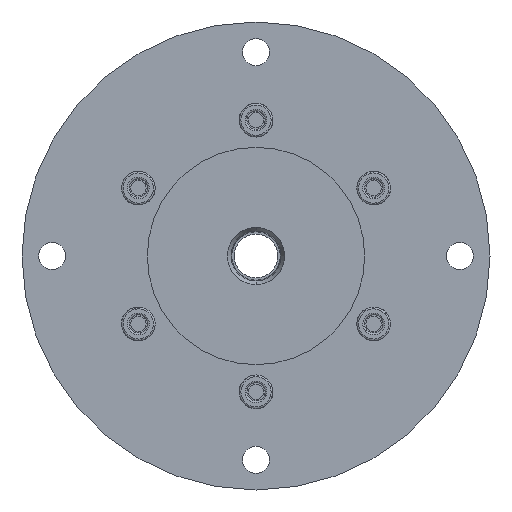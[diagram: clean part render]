
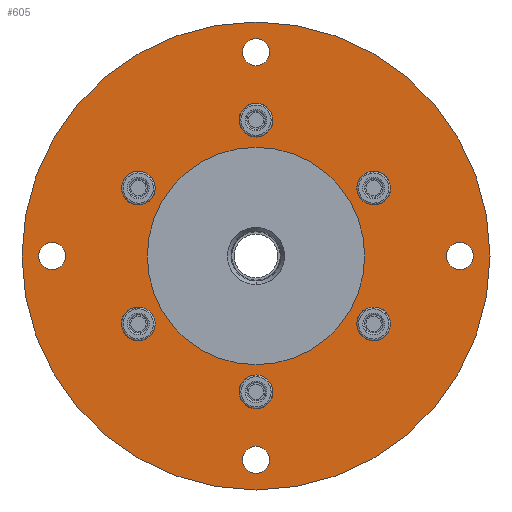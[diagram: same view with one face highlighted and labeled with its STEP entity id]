
A CAD part, front view. The second image highlights one B-rep face of the part: STEP entity #605.
In plain terms, the highlighted planar face has unit normal (0, -1, 0).
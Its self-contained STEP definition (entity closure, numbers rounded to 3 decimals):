
#60=CARTESIAN_POINT('',(38.971,2.5,-16.9));
#61=VERTEX_POINT('',#60);
#68=CARTESIAN_POINT('',(38.971,2.5,-28.1));
#69=VERTEX_POINT('',#68);
#70=CARTESIAN_POINT('',(38.971,2.5,-22.5));
#71=DIRECTION('',(0.0,-1.0,0.0));
#72=DIRECTION('',(0.866,0.0,-0.5));
#73=AXIS2_PLACEMENT_3D('',#70,#71,#72);
#74=CIRCLE('',#73,5.6);
#75=EDGE_CURVE('no 1353',#61,#69,#74,.T.);
#111=CARTESIAN_POINT('',(38.971,2.5,28.1));
#112=VERTEX_POINT('',#111);
#119=CARTESIAN_POINT('',(38.971,2.5,16.9));
#120=VERTEX_POINT('',#119);
#121=CARTESIAN_POINT('',(38.971,2.5,22.5));
#122=DIRECTION('',(0.0,-1.0,0.0));
#123=DIRECTION('',(0.866,0.0,0.5));
#124=AXIS2_PLACEMENT_3D('',#121,#122,#123);
#125=CIRCLE('',#124,5.6);
#126=EDGE_CURVE('no 1387',#112,#120,#125,.T.);
#162=CARTESIAN_POINT('',(0.0,2.5,50.6));
#163=VERTEX_POINT('',#162);
#170=CARTESIAN_POINT('',(0.0,2.5,39.4));
#171=VERTEX_POINT('',#170);
#172=CARTESIAN_POINT('',(0.0,2.5,45.0));
#173=DIRECTION('',(0.0,-1.0,0.0));
#174=DIRECTION('',(0.0,0.0,1.0));
#175=AXIS2_PLACEMENT_3D('',#172,#173,#174);
#176=CIRCLE('',#175,5.6);
#177=EDGE_CURVE('no 1421',#163,#171,#176,.T.);
#213=CARTESIAN_POINT('',(-38.971,2.5,28.1));
#214=VERTEX_POINT('',#213);
#221=CARTESIAN_POINT('',(-43.821,2.5,25.3));
#222=VERTEX_POINT('',#221);
#223=CARTESIAN_POINT('',(-38.971,2.5,22.5));
#224=DIRECTION('',(0.0,-1.0,0.0));
#225=DIRECTION('',(-0.866,0.0,0.5));
#226=AXIS2_PLACEMENT_3D('',#223,#224,#225);
#227=CIRCLE('',#226,5.6);
#228=EDGE_CURVE('no 1455',#214,#222,#227,.T.);
#230=CARTESIAN_POINT('',(-38.971,2.5,16.9));
#231=VERTEX_POINT('',#230);
#232=CARTESIAN_POINT('',(-38.971,2.5,22.5));
#233=DIRECTION('',(0.0,-1.0,0.0));
#234=DIRECTION('',(-0.866,0.0,0.5));
#235=AXIS2_PLACEMENT_3D('',#232,#233,#234);
#236=CIRCLE('',#235,5.6);
#237=EDGE_CURVE('no 1461',#222,#231,#236,.T.);
#273=CARTESIAN_POINT('',(-38.971,2.5,-16.9));
#274=VERTEX_POINT('',#273);
#281=CARTESIAN_POINT('',(-43.821,2.5,-25.3));
#282=VERTEX_POINT('',#281);
#283=CARTESIAN_POINT('',(-38.971,2.5,-22.5));
#284=DIRECTION('',(0.0,-1.0,-0.0));
#285=DIRECTION('',(-0.866,0.0,-0.5));
#286=AXIS2_PLACEMENT_3D('',#283,#284,#285);
#287=CIRCLE('',#286,5.6);
#288=EDGE_CURVE('no 1495',#274,#282,#287,.T.);
#290=CARTESIAN_POINT('',(-38.971,2.5,-28.1));
#291=VERTEX_POINT('',#290);
#292=CARTESIAN_POINT('',(-38.971,2.5,-22.5));
#293=DIRECTION('',(0.0,-1.0,-0.0));
#294=DIRECTION('',(-0.866,0.0,-0.5));
#295=AXIS2_PLACEMENT_3D('',#292,#293,#294);
#296=CIRCLE('',#295,5.6);
#297=EDGE_CURVE('no 1501',#282,#291,#296,.T.);
#333=CARTESIAN_POINT('',(0.0,2.5,-39.4));
#334=VERTEX_POINT('',#333);
#341=CARTESIAN_POINT('',(0.0,2.5,-50.6));
#342=VERTEX_POINT('',#341);
#343=CARTESIAN_POINT('',(0.0,2.5,-45.0));
#344=DIRECTION('',(0.0,-1.0,0.0));
#345=DIRECTION('',(0.0,0.0,-1.0));
#346=AXIS2_PLACEMENT_3D('',#343,#344,#345);
#347=CIRCLE('',#346,5.6);
#348=EDGE_CURVE('no 1535',#334,#342,#347,.T.);
#382=CARTESIAN_POINT('',(43.821,2.5,-25.3));
#383=VERTEX_POINT('',#382);
#384=CARTESIAN_POINT('',(38.971,2.5,-22.5));
#385=DIRECTION('',(0.0,-1.0,0.0));
#386=DIRECTION('',(0.866,0.0,-0.5));
#387=AXIS2_PLACEMENT_3D('',#384,#385,#386);
#388=CIRCLE('',#387,5.6);
#389=EDGE_CURVE('no 1560',#69,#383,#388,.T.);
#390=ORIENTED_EDGE('',*,*,#389,.F.);
#391=ORIENTED_EDGE('',*,*,#75,.F.);
#392=CARTESIAN_POINT('',(38.971,2.5,-22.5));
#393=DIRECTION('',(0.0,-1.0,0.0));
#394=DIRECTION('',(0.866,0.0,-0.5));
#395=AXIS2_PLACEMENT_3D('',#392,#393,#394);
#396=CIRCLE('',#395,5.6);
#397=EDGE_CURVE('no 1566',#383,#61,#396,.T.);
#398=ORIENTED_EDGE('',*,*,#397,.F.);
#399=EDGE_LOOP('',(#390,#391,#398));
#400=FACE_BOUND('',#399,.T.);
#401=CARTESIAN_POINT('',(43.821,2.5,25.3));
#402=VERTEX_POINT('',#401);
#403=CARTESIAN_POINT('',(38.971,2.5,22.5));
#404=DIRECTION('',(0.0,-1.0,0.0));
#405=DIRECTION('',(0.866,0.0,0.5));
#406=AXIS2_PLACEMENT_3D('',#403,#404,#405);
#407=CIRCLE('',#406,5.6);
#408=EDGE_CURVE('no 1573',#120,#402,#407,.T.);
#409=ORIENTED_EDGE('',*,*,#408,.F.);
#410=ORIENTED_EDGE('',*,*,#126,.F.);
#411=CARTESIAN_POINT('',(38.971,2.5,22.5));
#412=DIRECTION('',(0.0,-1.0,0.0));
#413=DIRECTION('',(0.866,0.0,0.5));
#414=AXIS2_PLACEMENT_3D('',#411,#412,#413);
#415=CIRCLE('',#414,5.6);
#416=EDGE_CURVE('no 1579',#402,#112,#415,.T.);
#417=ORIENTED_EDGE('',*,*,#416,.F.);
#418=EDGE_LOOP('',(#409,#410,#417));
#419=FACE_BOUND('',#418,.T.);
#420=CARTESIAN_POINT('',(0.0,2.5,45.0));
#421=DIRECTION('',(0.0,-1.0,0.0));
#422=DIRECTION('',(0.0,0.0,1.0));
#423=AXIS2_PLACEMENT_3D('',#420,#421,#422);
#424=CIRCLE('',#423,5.6);
#425=EDGE_CURVE('no 1584',#171,#163,#424,.T.);
#426=ORIENTED_EDGE('',*,*,#425,.F.);
#427=ORIENTED_EDGE('',*,*,#177,.F.);
#428=EDGE_LOOP('',(#426,#427));
#429=FACE_BOUND('',#428,.T.);
#430=ORIENTED_EDGE('',*,*,#228,.F.);
#431=CARTESIAN_POINT('',(-38.971,2.5,22.5));
#432=DIRECTION('',(0.0,-1.0,0.0));
#433=DIRECTION('',(-0.866,0.0,0.5));
#434=AXIS2_PLACEMENT_3D('',#431,#432,#433);
#435=CIRCLE('',#434,5.6);
#436=EDGE_CURVE('no 1593',#231,#214,#435,.T.);
#437=ORIENTED_EDGE('',*,*,#436,.F.);
#438=ORIENTED_EDGE('',*,*,#237,.F.);
#439=EDGE_LOOP('',(#430,#437,#438));
#440=FACE_BOUND('',#439,.T.);
#441=ORIENTED_EDGE('',*,*,#288,.F.);
#442=CARTESIAN_POINT('',(-38.971,2.5,-22.5));
#443=DIRECTION('',(0.0,-1.0,-0.0));
#444=DIRECTION('',(-0.866,0.0,-0.5));
#445=AXIS2_PLACEMENT_3D('',#442,#443,#444);
#446=CIRCLE('',#445,5.6);
#447=EDGE_CURVE('no 1602',#291,#274,#446,.T.);
#448=ORIENTED_EDGE('',*,*,#447,.F.);
#449=ORIENTED_EDGE('',*,*,#297,.F.);
#450=EDGE_LOOP('',(#441,#448,#449));
#451=FACE_BOUND('',#450,.T.);
#452=ORIENTED_EDGE('',*,*,#348,.F.);
#453=CARTESIAN_POINT('',(0.0,2.5,-45.0));
#454=DIRECTION('',(0.0,-1.0,0.0));
#455=DIRECTION('',(0.0,0.0,-1.0));
#456=AXIS2_PLACEMENT_3D('',#453,#454,#455);
#457=CIRCLE('',#456,5.6);
#458=EDGE_CURVE('no 1611',#342,#334,#457,.T.);
#459=ORIENTED_EDGE('',*,*,#458,.F.);
#460=EDGE_LOOP('',(#452,#459));
#461=FACE_BOUND('',#460,.T.);
#462=CARTESIAN_POINT('',(-67.5,2.5,-4.5));
#463=VERTEX_POINT('',#462);
#464=CARTESIAN_POINT('',(-67.5,2.5,4.5));
#465=VERTEX_POINT('',#464);
#466=CARTESIAN_POINT('',(-67.5,2.5,0.0));
#467=DIRECTION('',(0.0,1.0,0.0));
#468=DIRECTION('',(-0.0,0.0,-1.0));
#469=AXIS2_PLACEMENT_3D('',#466,#467,#468);
#470=CIRCLE('',#469,4.5);
#471=EDGE_CURVE('no 1620',#463,#465,#470,.T.);
#472=ORIENTED_EDGE('',*,*,#471,.T.);
#473=CARTESIAN_POINT('',(-67.5,2.5,0.0));
#474=DIRECTION('',(0.0,1.0,0.0));
#475=DIRECTION('',(-0.0,0.0,-1.0));
#476=AXIS2_PLACEMENT_3D('',#473,#474,#475);
#477=CIRCLE('',#476,4.5);
#478=EDGE_CURVE('no 1624',#465,#463,#477,.T.);
#479=ORIENTED_EDGE('',*,*,#478,.T.);
#480=EDGE_LOOP('',(#472,#479));
#481=FACE_BOUND('',#480,.T.);
#482=CARTESIAN_POINT('',(67.5,2.5,4.5));
#483=VERTEX_POINT('',#482);
#484=CARTESIAN_POINT('',(67.5,2.5,-4.5));
#485=VERTEX_POINT('',#484);
#486=CARTESIAN_POINT('',(67.5,2.5,-0.0));
#487=DIRECTION('',(0.0,1.0,0.0));
#488=DIRECTION('',(0.0,0.0,1.0));
#489=AXIS2_PLACEMENT_3D('',#486,#487,#488);
#490=CIRCLE('',#489,4.5);
#491=EDGE_CURVE('no 1633',#483,#485,#490,.T.);
#492=ORIENTED_EDGE('',*,*,#491,.T.);
#493=CARTESIAN_POINT('',(67.5,2.5,-0.0));
#494=DIRECTION('',(0.0,1.0,0.0));
#495=DIRECTION('',(0.0,0.0,1.0));
#496=AXIS2_PLACEMENT_3D('',#493,#494,#495);
#497=CIRCLE('',#496,4.5);
#498=EDGE_CURVE('no 1637',#485,#483,#497,.T.);
#499=ORIENTED_EDGE('',*,*,#498,.T.);
#500=EDGE_LOOP('',(#492,#499));
#501=FACE_BOUND('',#500,.T.);
#502=CARTESIAN_POINT('',(0.0,2.5,36.0));
#503=VERTEX_POINT('',#502);
#504=CARTESIAN_POINT('',(0.0,2.5,-36.0));
#505=VERTEX_POINT('',#504);
#506=CARTESIAN_POINT('',(0.0,2.5,0.0));
#507=DIRECTION('',(0.0,-1.0,0.0));
#508=DIRECTION('',(0.0,0.0,-1.0));
#509=AXIS2_PLACEMENT_3D('',#506,#507,#508);
#510=CIRCLE('',#509,36.0);
#511=EDGE_CURVE('no 1646',#503,#505,#510,.T.);
#512=ORIENTED_EDGE('',*,*,#511,.F.);
#513=CARTESIAN_POINT('',(0.0,2.5,0.0));
#514=DIRECTION('',(0.0,-1.0,0.0));
#515=DIRECTION('',(0.0,0.0,-1.0));
#516=AXIS2_PLACEMENT_3D('',#513,#514,#515);
#517=CIRCLE('',#516,36.0);
#518=EDGE_CURVE('no 1650',#505,#503,#517,.T.);
#519=ORIENTED_EDGE('',*,*,#518,.F.);
#520=EDGE_LOOP('',(#512,#519));
#521=FACE_BOUND('',#520,.T.);
#522=CARTESIAN_POINT('',(0.0,2.5,-77.5));
#523=VERTEX_POINT('',#522);
#524=CARTESIAN_POINT('',(0.0,2.5,77.5));
#525=VERTEX_POINT('',#524);
#526=CARTESIAN_POINT('',(0.0,2.5,0.0));
#527=DIRECTION('',(0.0,-1.0,0.0));
#528=DIRECTION('',(0.0,0.0,-1.0));
#529=AXIS2_PLACEMENT_3D('',#526,#527,#528);
#530=CIRCLE('',#529,77.5);
#531=EDGE_CURVE('no 1659',#523,#525,#530,.T.);
#532=ORIENTED_EDGE('',*,*,#531,.T.);
#533=CARTESIAN_POINT('',(0.0,2.5,0.0));
#534=DIRECTION('',(0.0,-1.0,0.0));
#535=DIRECTION('',(0.0,0.0,-1.0));
#536=AXIS2_PLACEMENT_3D('',#533,#534,#535);
#537=CIRCLE('',#536,77.5);
#538=EDGE_CURVE('no 1663',#525,#523,#537,.T.);
#539=ORIENTED_EDGE('',*,*,#538,.T.);
#540=EDGE_LOOP('',(#532,#539));
#541=FACE_OUTER_BOUND('',#540,.T.);
#542=CARTESIAN_POINT('',(4.5,2.5,-67.5));
#543=VERTEX_POINT('',#542);
#544=CARTESIAN_POINT('',(-0.0,2.5,-72.0));
#545=VERTEX_POINT('',#544);
#546=CARTESIAN_POINT('',(-0.0,2.5,-67.5));
#547=DIRECTION('',(0.0,1.0,0.0));
#548=DIRECTION('',(1.0,0.0,-0.0));
#549=AXIS2_PLACEMENT_3D('',#546,#547,#548);
#550=CIRCLE('',#549,4.5);
#551=EDGE_CURVE('no 1672',#543,#545,#550,.T.);
#552=ORIENTED_EDGE('',*,*,#551,.T.);
#553=CARTESIAN_POINT('',(-0.0,2.5,-63.0));
#554=VERTEX_POINT('',#553);
#555=CARTESIAN_POINT('',(-0.0,2.5,-67.5));
#556=DIRECTION('',(0.0,1.0,0.0));
#557=DIRECTION('',(1.0,0.0,-0.0));
#558=AXIS2_PLACEMENT_3D('',#555,#556,#557);
#559=CIRCLE('',#558,4.5);
#560=EDGE_CURVE('no 1678',#545,#554,#559,.T.);
#561=ORIENTED_EDGE('',*,*,#560,.T.);
#562=CARTESIAN_POINT('',(-0.0,2.5,-67.5));
#563=DIRECTION('',(0.0,1.0,0.0));
#564=DIRECTION('',(1.0,0.0,-0.0));
#565=AXIS2_PLACEMENT_3D('',#562,#563,#564);
#566=CIRCLE('',#565,4.5);
#567=EDGE_CURVE('no 1682',#554,#543,#566,.T.);
#568=ORIENTED_EDGE('',*,*,#567,.T.);
#569=EDGE_LOOP('',(#552,#561,#568));
#570=FACE_BOUND('',#569,.T.);
#571=CARTESIAN_POINT('',(-4.5,2.5,67.5));
#572=VERTEX_POINT('',#571);
#573=CARTESIAN_POINT('',(0.0,2.5,72.0));
#574=VERTEX_POINT('',#573);
#575=CARTESIAN_POINT('',(0.0,2.5,67.5));
#576=DIRECTION('',(0.0,1.0,0.0));
#577=DIRECTION('',(-1.0,0.0,0.0));
#578=AXIS2_PLACEMENT_3D('',#575,#576,#577);
#579=CIRCLE('',#578,4.5);
#580=EDGE_CURVE('no 1691',#572,#574,#579,.T.);
#581=ORIENTED_EDGE('',*,*,#580,.T.);
#582=CARTESIAN_POINT('',(0.0,2.5,63.0));
#583=VERTEX_POINT('',#582);
#584=CARTESIAN_POINT('',(0.0,2.5,67.5));
#585=DIRECTION('',(0.0,1.0,0.0));
#586=DIRECTION('',(-1.0,0.0,0.0));
#587=AXIS2_PLACEMENT_3D('',#584,#585,#586);
#588=CIRCLE('',#587,4.5);
#589=EDGE_CURVE('no 1697',#574,#583,#588,.T.);
#590=ORIENTED_EDGE('',*,*,#589,.T.);
#591=CARTESIAN_POINT('',(0.0,2.5,67.5));
#592=DIRECTION('',(0.0,1.0,0.0));
#593=DIRECTION('',(-1.0,0.0,0.0));
#594=AXIS2_PLACEMENT_3D('',#591,#592,#593);
#595=CIRCLE('',#594,4.5);
#596=EDGE_CURVE('no 1701',#583,#572,#595,.T.);
#597=ORIENTED_EDGE('',*,*,#596,.T.);
#598=EDGE_LOOP('',(#581,#590,#597));
#599=FACE_BOUND('',#598,.T.);
#600=CARTESIAN_POINT('',(0.0,2.5,0.0));
#601=DIRECTION('',(0.0,-1.0,0.0));
#602=DIRECTION('',(0.0,0.0,-1.0));
#603=AXIS2_PLACEMENT_3D('',#600,#601,#602);
#604=PLANE('',#603);
#605=ADVANCED_FACE('no 1553',(#400,#419,#429,#440,#451,#461,#481,#501,#521,#541,
    #570,#599),#604,.T.);
